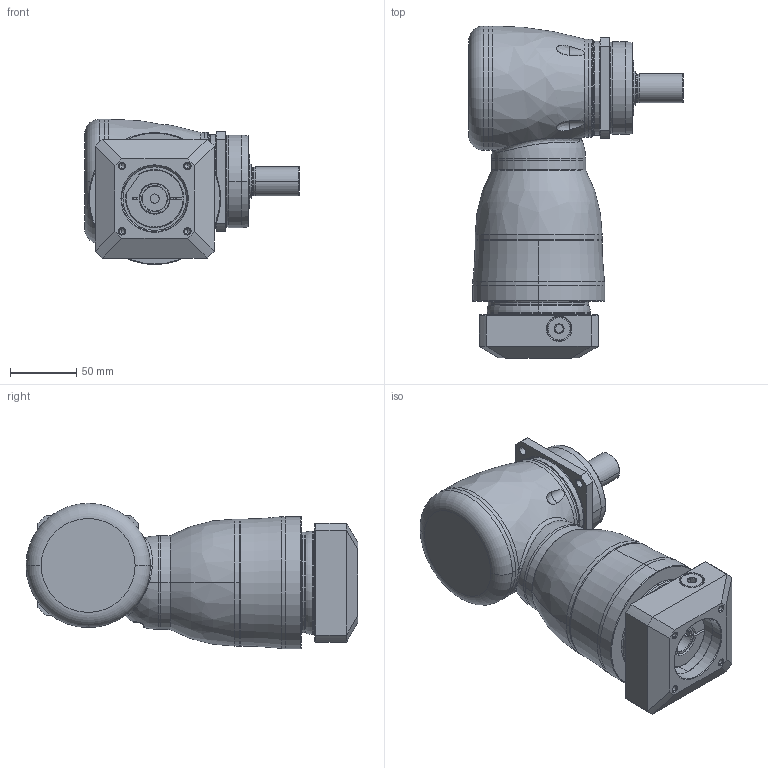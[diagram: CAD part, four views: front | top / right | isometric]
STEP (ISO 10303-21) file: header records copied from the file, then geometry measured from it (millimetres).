
FILE_DESCRIPTION((''),'2;1');
FILE_NAME('KF075_2ST_19-P0409400101_ASM','2016-06-24T',('d01943'),(''),'PRO/ENGINEER BY PARAMETRIC TECHNOLOGY CORPORATION, 2008410','PRO/ENGINEER BY PARAMETRIC TECHNOLOGY CORPORATION, 2008410','');
FILE_SCHEMA(('CONFIG_CONTROL_DESIGN'));
Length unit declared in the file: millimetre
Products named in the file (11): P1008300002; P1804300001; P0915300001; P1315300001; P1007300001; P1317300301; P0409400101; P0503400006; P0912203001; 21711412017; KF075_2ST_19-P0409400101_ASM
Assembly tree (10 placements, depth 2):
  KF075_2ST_19-P0409400101_ASM
    P1008300002
    P1804300001
    P0915300001
    P1315300001
    P1007300001
    P1317300301
    P0409400101
    P0503400006
    P0912203001
    21711412017
Bounding box: 162.5 x 251 x 110 mm (x, y, z)
Volume: 1367125.8 mm3; surface area: 213197.9 mm2
Topology: 11 solids, 11 shells, 472 faces, 1083 edges, 645 vertices
Faces by surface type: cylinder 151, cone 108, plane 87, torus 74, bspline 50, sphere 2
Entity records: 20838 total; most frequent: CARTESIAN_POINT 10173, DIRECTION 2310, ORIENTED_EDGE 2104, EDGE_CURVE 1052, AXIS2_PLACEMENT_3D 991, VERTEX_POINT 638, CIRCLE 548, EDGE_LOOP 534
